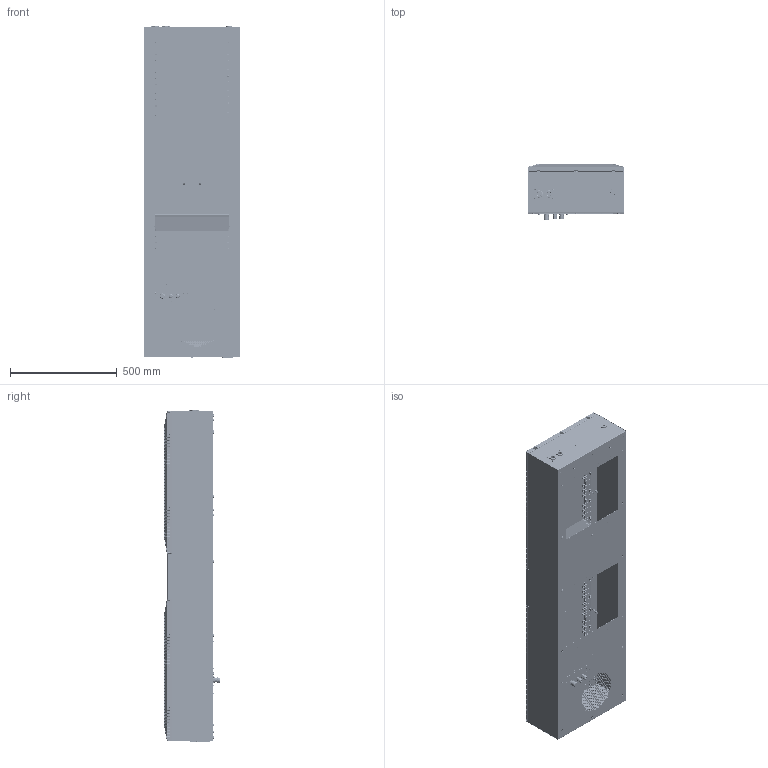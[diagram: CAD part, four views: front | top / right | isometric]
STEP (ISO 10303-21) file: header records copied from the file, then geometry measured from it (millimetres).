
FILE_DESCRIPTION((''),'2;1');
FILE_NAME('RK7555_COMPLETE_ASM_ASM','2022-10-27T12:32:37',('sant'),(''),'CREO PARAMETRIC BY PTC INC, 2018260','CREO PARAMETRIC BY PTC INC, 2018260','');
FILE_SCHEMA(('CONFIG_CONTROL_DESIGN'));
Products named in the file (72): RK7555_HOUSING_1; RK7555_HOUSING_MANUFACTURED_ASM_ASM; POPNUT_M6_HEX_CL_WITH_LIP_1_5MM; POPNUT_M8_HEX_CLOSED_HEAD1-5_ST; POPNUT_M4_HEX_CLOSED_STEEL_1; TOOTHED_WASHER_DIN6797_M4_1; EARTH_RING_1; WASHER_FLAT_A4_3_STEEL_1; RIVETED_1; RK7555_INS_HOUSING_SIDE_1; RK7555_INS_HOUSING_TOP_1; RK7555_HOUSING_ASSEMBLY_ASM_1_ASM; RK7555_HOUSING_BASE_1; RK7555_HOUSING_BASE_SUPPORT_1; RK7555_HOUSING_BASE_ASM_1_ASM; GROMMET_10_14_1; RK7525_CONNECTION_PLATE_G1-2_1; REDUCER_BR_G3-4_G1-2_RN3412MS_1; SCREW_M4X12_ISO14583_A2_TORX_1; RK7525_CONNCT_PLATE_G1-2_12_BOT_ASM; RK7525_IN_OUT_BLANKING_PLATE_1; RIVET_4X95_AL_ST_PULLED_1; RK7525_CONNECTION_PLATE_BLANK_A_ASM; RK85XX_ELEC_CONN_BRKT_1; POPNUT_M4_HEX_OPEN_STEEL_1; RK851X_ELEC_CONN_BRKT_MNF_ASM_1_ASM; MC-PB7_62H04C-F_1; MC-RJ7_62H04P_1_1; MC-RJ7_62H04P_1_2; MC-RJ7_62H04P_1_ASM; MC-7_62-4-PUSH-IN-ASSEMBLY_ASM__ASM; MC-PB5_08H05C-F_1; MC-RJ5_08H05P_1; MC-5-5-PUSH-IN-ASSEMBLY_ASM_1_ASM; MC-PB5_08H03C-F_1_1; MC-PB5_08H03C-F_1_2; MC-PB5_08H03C-F_1_ASM; MC-RJ5_08H03P_1; MC-PB5-3P_ASM_1_ASM; ISO7045-M2_5X10-4_8_1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
Assembly tree (234 placements, depth 6):
  RK7555_COMPLETE_ASM_ASM
    RK7555_COMPLETE_ASM_1_ASM
      RK7555_HOUSING_ASSEMBLY_ASM_1_ASM
        RK7555_HOUSING_MANUFACTURED_ASM_ASM
          RK7555_HOUSING_1
        POPNUT_M6_HEX_CL_WITH_LIP_1_5MM  x26
        POPNUT_M8_HEX_CLOSED_HEAD1-5_ST
        POPNUT_M4_HEX_CLOSED_STEEL_1  x28
        TOOTHED_WASHER_DIN6797_M4_1
        EARTH_RING_1
        WASHER_FLAT_A4_3_STEEL_1
        RIVETED_1
        RK7555_INS_HOUSING_SIDE_1  x2
        RK7555_INS_HOUSING_TOP_1
      RK7555_HOUSING_BASE_ASM_1_ASM
        RK7555_HOUSING_BASE_1
        RIVETED_1  x8
        RK7555_HOUSING_BASE_SUPPORT_1
        POPNUT_M4_HEX_CLOSED_STEEL_1  x2
      GROMMET_10_14_1
      RK7525_CONNCT_PLATE_G1-2_12_BOT_ASM
        RK7525_CONNECTION_PLATE_G1-2_1
        REDUCER_BR_G3-4_G1-2_RN3412MS_1  x2
        SCREW_M4X12_ISO14583_A2_TORX_1  x4
      RK7525_CONNECTION_PLATE_BLANK_A_ASM
        RK7525_IN_OUT_BLANKING_PLATE_1
        RIVET_4X95_AL_ST_PULLED_1  x4
      RK851X_ELEC_CONN_MODULE_ASM_1_ASM
        RK851X_ELEC_CONN_BRKT_MNF_ASM_1_ASM
          RK85XX_ELEC_CONN_BRKT_1
          POPNUT_M4_HEX_OPEN_STEEL_1  x2
        MC-7_62-4-PUSH-IN-ASSEMBLY_ASM__ASM
          MC-PB7_62H04C-F_1
          MC-RJ7_62H04P_1_ASM
            MC-RJ7_62H04P_1_1
            MC-RJ7_62H04P_1_2
        MC-5-5-PUSH-IN-ASSEMBLY_ASM_1_ASM
          MC-PB5_08H05C-F_1
          MC-RJ5_08H05P_1
        MC-PB5-3P_ASM_1_ASM
          MC-PB5_08H03C-F_1_ASM
            MC-PB5_08H03C-F_1_1
            MC-PB5_08H03C-F_1_2
          MC-RJ5_08H03P_1
        ISO7045-M2_5X10-4_8_1  x6
        RK75XX_MODBUS_BLANKING_PLATE_1
        SCREW_DIN7500_M2-5X16_TX_Z-PL_1  x2
        BL_RIV_3_2X9_5_AL_A2_RIVETED_1  x4
        RK85XX-STRAIN-RELIEF-BRKT_ASM_1_ASM
          RK85XX-STRAIN-RELIEF-BRKT_1
          SCB-M4-12_SS_1  x2
        CABLE_GLAND_M16_1  x2
        CABLE_GLAND_M20_METAL_1
        NUT_M20_CABLE_GLAND_METAL_1
        NUT_M16_CABLE_GLAND_GENERIC_1  x2
        BLANKING_STOPPER_M16_1
        TOOTHED_WASHER_DIN6797_M4_1  x3
        EARTH_RING_1  x3
        WASHER_FLAT_A4_3_STEEL_1  x7
        RIVETED_1  x7
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Bounding box: 455 x 263.07 x 1558.75 mm (x, y, z)
Volume: 4884628.4 mm3; surface area: 6366000.8 mm2
Topology: 216 solids, 356 shells, 28286 faces, 78923 edges, 51435 vertices
Faces by surface type: plane 18467, cylinder 7542, cone 961, bspline 820, torus 286, extrusion 139, sphere 71
Entity records: 424560 total; most frequent: CARTESIAN_POINT 112770, ORIENTED_EDGE 66573, DIRECTION 60618, EDGE_CURVE 33493, VECTOR 24288, LINE 24149, VERTEX_POINT 22038, AXIS2_PLACEMENT_3D 18165
